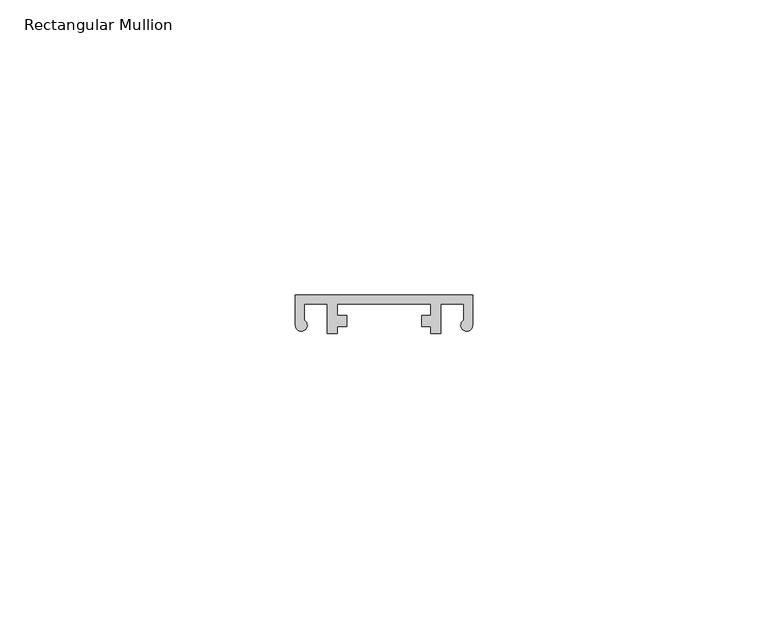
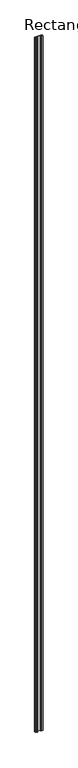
"""IFC4 building model written with IfcOpenShell, lengths in millimetres: member geometry, Rectangular Mullion : LD.0065 - right_renson."""

from ifc_helpers import new_model, si_unit, point, frame, frame_2d, origin, place, context, project, spatial, polyline, circle_curve, trimmed, segment, composite_curve, outline, extrude, source, transform, mapped, element, save


def rectangular_mullion_e0a14876(model_context):
    return source(origin(), model_context, "Body", "SweptSolid", [
        extrude(outline(composite_curve([segment(polyline([(-80.0, -6.1202978), (-80.0, -1.0), (-50.0, -1.0), (-50.0, -6.1202978)]), True, "CONTINUOUS"), segment(trimmed(circle_curve(frame_2d((-51.0, -6.1202978)), 1.0), [point((-50.0, -6.1202978))], [point((-51.4796095, -5.2428158))], False, "CARTESIAN"), True, "CONTINUOUS"), segment(polyline([(-51.4796095, -5.2428158), (-51.4796095, -2.5), (-55.3524274, -2.5), (-55.3524274, -7.5), (-57.1130599, -7.5), (-57.1130599, -6.2999542), (-58.6401391, -6.2999542), (-58.6401391, -4.4494935), (-57.1130599, -4.4494935), (-57.1130599, -2.5), (-72.8869401, -2.5), (-72.8869401, -4.4494935), (-71.3475726, -4.4494935), (-71.3475726, -6.2999542), (-72.8869401, -6.2999542), (-72.8869401, -7.5), (-74.6475726, -7.5), (-74.6475726, -2.5), (-78.5203905, -2.5), (-78.5203905, -5.2428158)]), True, "CONTINUOUS"), segment(trimmed(circle_curve(frame_2d((-79.0, -6.1202978)), 1.0), [point((-78.5203905, -5.2428158))], [point((-80.0, -6.1202978))], False, "CARTESIAN"), True, "CONTINUOUS")], self_intersect=False)), frame((0.0, 0.0, -3000.0), z_axis=(0.0, 0.0, 1.0), x_axis=(1.0, 0.0, 0.0)), (0.0, 0.0, 1.0), 3000.0),
    ])


if __name__ == "__main__":
    model = new_model("IFC4")
    model_context = context("Model", 3, world=origin())
    ifc_project = project(units=[si_unit("LENGTHUNIT", "METRE", prefix="MILLI")], contexts=[model_context])
    site = spatial("IfcSite", under=ifc_project)
    building = spatial("IfcBuilding", under=site)
    placement = place(None, origin())
    rectangular_mullion_shape = rectangular_mullion_e0a14876(model_context)
    element("IfcMember", 1, ObjectType="Rectangular Mullion : LD.0065 - right_renson", at=placement, inside=building, context=model_context, shape_type="MappedRepresentation", body=[
        mapped(rectangular_mullion_shape, transform((0.0, 0.0, 0.0), x_axis=(1.0, 0.0, 0.0), y_axis=(0.0, 1.0, 0.0), z_axis=(0.0, 0.0, 1.0))),
    ])
    save(model, "model.ifc")
